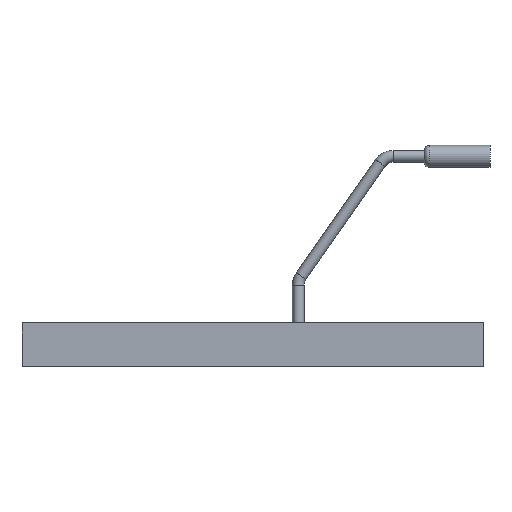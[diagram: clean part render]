
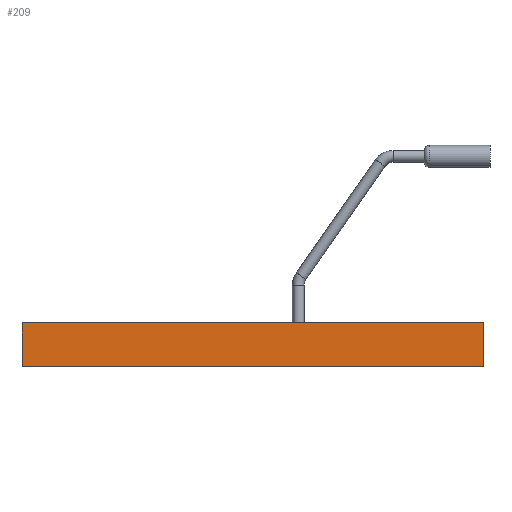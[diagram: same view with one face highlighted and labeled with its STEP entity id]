
A CAD part, top view. The second image highlights one B-rep face of the part: STEP entity #209.
In plain terms, the highlighted planar face has unit normal (0, 0, 1).
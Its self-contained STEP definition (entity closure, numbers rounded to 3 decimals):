
#15 = EDGE_CURVE ( 'NONE', #223, #226, #594, .T. ) ;
#43 = EDGE_CURVE ( 'NONE', #225, #228, #614, .T. ) ;
#48 = AXIS2_PLACEMENT_3D ( 'NONE', #433, #441, #442 ) ;
#61 = EDGE_CURVE ( 'NONE', #225, #223, #630, .T. ) ;
#101 = EDGE_CURVE ( 'NONE', #228, #226, #659, .T. ) ;
#209 = ADVANCED_FACE ( 'NONE', ( #698 ), #439, .T. ) ;
#223 = VERTEX_POINT ( 'NONE', #471 ) ;
#225 = VERTEX_POINT ( 'NONE', #479 ) ;
#226 = VERTEX_POINT ( 'NONE', #480 ) ;
#228 = VERTEX_POINT ( 'NONE', #482 ) ;
#261 = CARTESIAN_POINT ( 'NONE',  ( 127.247, -30., 5.25 ) ) ;
#267 = DIRECTION ( 'NONE',  ( 0., -1., 0. ) ) ;
#294 = CARTESIAN_POINT ( 'NONE',  ( -189.853, -30., 5.25 ) ) ;
#302 = DIRECTION ( 'NONE',  ( 0., -1., 0. ) ) ;
#322 = CARTESIAN_POINT ( 'NONE',  ( -189.853, 0., 5.25 ) ) ;
#323 = DIRECTION ( 'NONE',  ( 1., 0., 0. ) ) ;
#359 = CARTESIAN_POINT ( 'NONE',  ( -189.853, -30., 5.25 ) ) ;
#372 = DIRECTION ( 'NONE',  ( 1., 0., 0. ) ) ;
#433 = CARTESIAN_POINT ( 'NONE',  ( -189.853, -30., 5.25 ) ) ;
#439 = PLANE ( 'NONE',  #48 ) ;
#441 = DIRECTION ( 'NONE',  ( 0., 0., 1. ) ) ;
#442 = DIRECTION ( 'NONE',  ( 0., -1., 0. ) ) ;
#471 = CARTESIAN_POINT ( 'NONE',  ( 127.247, 0., 5.25 ) ) ;
#479 = CARTESIAN_POINT ( 'NONE',  ( -189.853, 0., 5.25 ) ) ;
#480 = CARTESIAN_POINT ( 'NONE',  ( 127.247, -30., 5.25 ) ) ;
#482 = CARTESIAN_POINT ( 'NONE',  ( -189.853, -30., 5.25 ) ) ;
#527 = ORIENTED_EDGE ( 'NONE', *, *, #15, .F. ) ;
#528 = ORIENTED_EDGE ( 'NONE', *, *, #61, .F. ) ;
#529 = ORIENTED_EDGE ( 'NONE', *, *, #43, .T. ) ;
#530 = ORIENTED_EDGE ( 'NONE', *, *, #101, .T. ) ;
#573 = EDGE_LOOP ( 'NONE', ( #527, #528, #529, #530 ) ) ;
#588 = VECTOR ( 'NONE', #267, 1000. ) ;
#594 = LINE ( 'NONE', #261, #588 ) ;
#614 = LINE ( 'NONE', #294, #616 ) ;
#616 = VECTOR ( 'NONE', #302, 1000. ) ;
#630 = LINE ( 'NONE', #322, #631 ) ;
#631 = VECTOR ( 'NONE', #323, 1000. ) ;
#659 = LINE ( 'NONE', #359, #663 ) ;
#663 = VECTOR ( 'NONE', #372, 1000. ) ;
#698 = FACE_OUTER_BOUND ( 'NONE', #573, .T. ) ;
